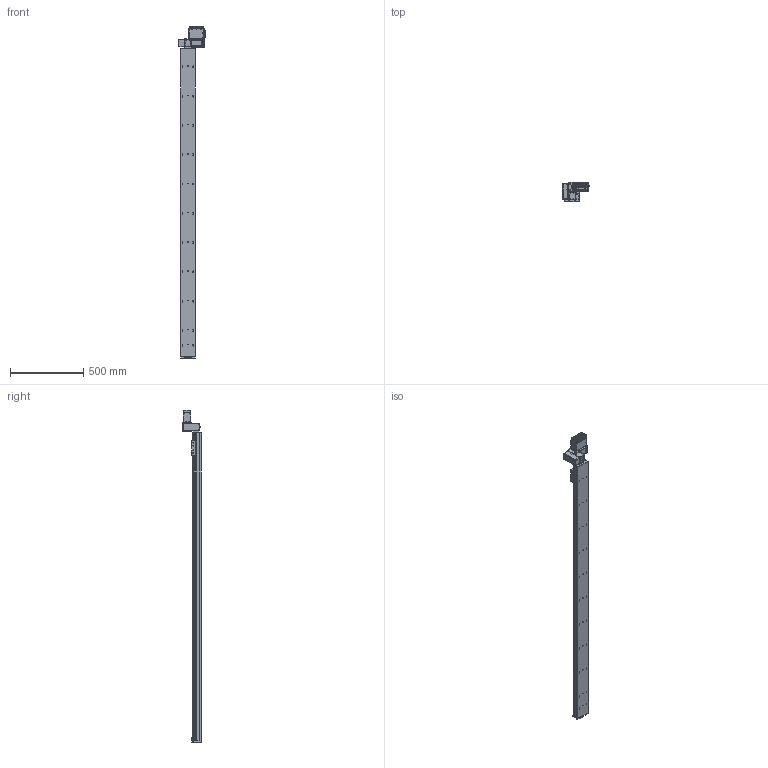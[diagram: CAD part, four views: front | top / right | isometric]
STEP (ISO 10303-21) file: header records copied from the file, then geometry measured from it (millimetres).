
FILE_DESCRIPTION (( 'STEP AP203' ), '1' );
FILE_NAME ('S10 TBN LT S2100.STEP', '2012-06-19T13:26:54', ( 'Conseil Régional Haute-Normandie' ), ( 'Conseil Régional Haute-Normandie' ), 'SwSTEP 2.0', 'SolidWorks 2010', '' );
FILE_SCHEMA (( 'CONFIG_CONTROL_DESIGN' ));
Length unit declared in the file: millimetre
Products named in the file (30): Cvis M5 L30_Default; embout; vis M5 L12_Default; Vis M5 L16-2_Default_1; vis M5 L5_Default; BU45 Carte d''axe A11_5; Moteur 60BLDC90A_3; Sub D 9cts 90_X2_00B_X0__3; Radiateur profil_X2_00E9_X0_ 100x25_3; Colonnette ronde_3; axe 2100; S10 TBN LT S2100; cache t皻e axe_Default; cache t皻e_Default; palette tbn; plaque de bout s10_Default; Plaque racord_Default; renvoi LH_Default; Assem1_7; T_X2_00F4_X0_le contre le moteur_5; BU41 Carte Alimentation P05_3; Colonnette_3; Couvercle_3; T_X2_00F4_X0_le fond_3; Connecteur rond D10 3cts_5; Connecteur rond D12 4cts_5; T_X2_00F4_X0_le Arri_X2_00E8_X0_re_5; T_X2_00F4_X0_le lat_X2_00E9_X0_rale_5; Vis TF 3 torkx_1_1; axe 2100_Default
Assembly tree (63 placements, depth 3):
  S10 TBN LT S2100
    cache t皻e_Default  x2
    vis M5 L12_Default  x4
    embout
    Vis M5 L16-2_Default_1  x4
    vis M5 L5_Default  x4
    plaque de bout s10_Default
    Cvis M5 L30_Default  x2
    renvoi LH_Default
    palette tbn
    Assem1_7
      T_X2_00F4_X0_le fond_3
      Radiateur profil_X2_00E9_X0_ 100x25_3
      Colonnette ronde_3
      T_X2_00F4_X0_le lat_X2_00E9_X0_rale_5  x2
      Vis TF 3 torkx_1_1  x21
      Connecteur rond D10 3cts_5  x2
      Sub D 9cts 90_X2_00B_X0__3
      BU45 Carte d''axe A11_5
      BU41 Carte Alimentation P05_3
      Couvercle_3
      Colonnette_3  x2
      Moteur 60BLDC90A_3
      T_X2_00F4_X0_le Arri_X2_00E8_X0_re_5
      T_X2_00F4_X0_le contre le moteur_5
      Connecteur rond D12 4cts_5
    Plaque racord_Default
    axe 2100_Default
      axe 2100
    cache t皻e axe_Default
Bounding box: 189.8 x 127 x 2266.49 mm (x, y, z)
Volume: 11731567.1 mm3; surface area: 1302939.3 mm2
Topology: 61 solids, 61 shells, 2360 faces, 5844 edges, 3767 vertices
Faces by surface type: plane 1111, cylinder 1024, cone 182, bspline 40, torus 3
Entity records: 49584 total; most frequent: CARTESIAN_POINT 8903, DIRECTION 8037, ORIENTED_EDGE 7268, EDGE_CURVE 3634, AXIS2_PLACEMENT_3D 3000, VERTEX_POINT 2371, VECTOR 2037, LINE 2037
